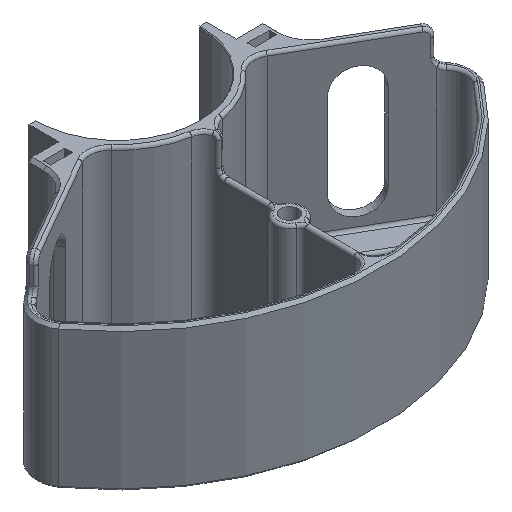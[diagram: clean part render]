
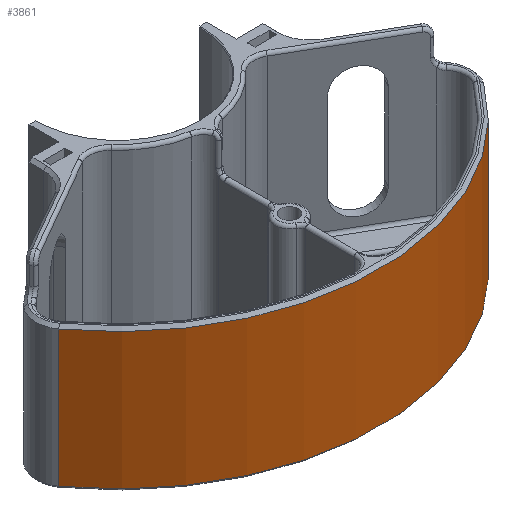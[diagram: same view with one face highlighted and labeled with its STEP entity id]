
A CAD part, isometric view. The second image highlights one B-rep face of the part: STEP entity #3861.
In plain terms, the highlighted cylindrical face has radius 88.5 mm (diameter 177 mm), a partial arc.
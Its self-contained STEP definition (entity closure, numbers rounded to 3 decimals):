
#288=CIRCLE('',#4136,88.5);
#295=CIRCLE('',#4150,88.5);
#525=CYLINDRICAL_SURFACE('',#4149,88.5);
#679=VECTOR('',#4805,1.);
#681=VECTOR('',#4811,1.);
#932=LINE('',#7482,#679);
#934=LINE('',#7488,#681);
#1212=VERTEX_POINT('',#7225);
#1214=VERTEX_POINT('',#7231);
#1231=VERTEX_POINT('',#7483);
#1233=VERTEX_POINT('',#7489);
#1621=EDGE_CURVE('',#1214,#1212,#288,.T.);
#1649=EDGE_CURVE('',#1212,#1231,#932,.T.);
#1652=EDGE_CURVE('',#1233,#1214,#934,.T.);
#1653=EDGE_CURVE('',#1231,#1233,#295,.T.);
#2342=ORIENTED_EDGE('',*,*,#1621,.F.);
#2343=ORIENTED_EDGE('',*,*,#1652,.F.);
#2344=ORIENTED_EDGE('',*,*,#1653,.F.);
#2345=ORIENTED_EDGE('',*,*,#1649,.F.);
#3286=EDGE_LOOP('',(#2342,#2343,#2344,#2345));
#3578=FACE_BOUND('',#3286,.T.);
#3861=ADVANCED_FACE('',(#3578),#525,.T.);
#4136=AXIS2_PLACEMENT_3D('',#7232,#4770,#4771);
#4149=AXIS2_PLACEMENT_3D('',#7487,#4809,#4810);
#4150=AXIS2_PLACEMENT_3D('',#7490,#4812,#4813);
#4770=DIRECTION('',(0.,0.,1.));
#4771=DIRECTION('',(0.,-88.5,0.));
#4805=DIRECTION('',(0.,0.,-1.));
#4809=DIRECTION('',(0.,0.,1.));
#4810=DIRECTION('',(88.5,0.,0.));
#4811=DIRECTION('',(0.,0.,1.));
#4812=DIRECTION('',(0.,0.,-1.));
#4813=DIRECTION('',(0.,-88.5,0.));
#7225=CARTESIAN_POINT('',(71.735,-51.83,17.));
#7231=CARTESIAN_POINT('',(-71.735,-51.83,17.));
#7232=CARTESIAN_POINT('',(0.,0.,17.));
#7482=CARTESIAN_POINT('',(71.735,-51.83,-30.));
#7483=CARTESIAN_POINT('',(71.735,-51.83,-29.));
#7487=CARTESIAN_POINT('',(0.,0.,-30.));
#7488=CARTESIAN_POINT('',(-71.735,-51.83,-30.));
#7489=CARTESIAN_POINT('',(-71.735,-51.83,-29.));
#7490=CARTESIAN_POINT('',(0.,0.,-29.));
